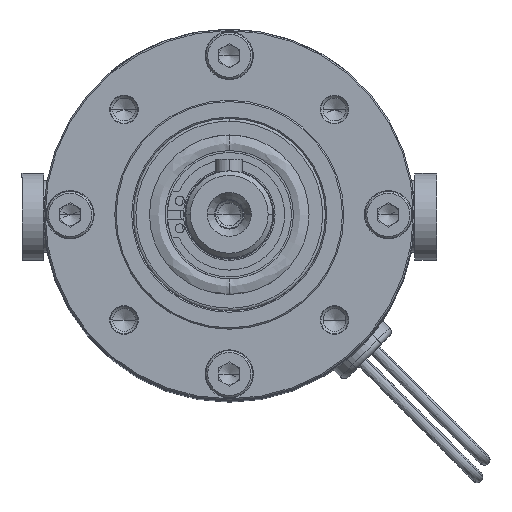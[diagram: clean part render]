
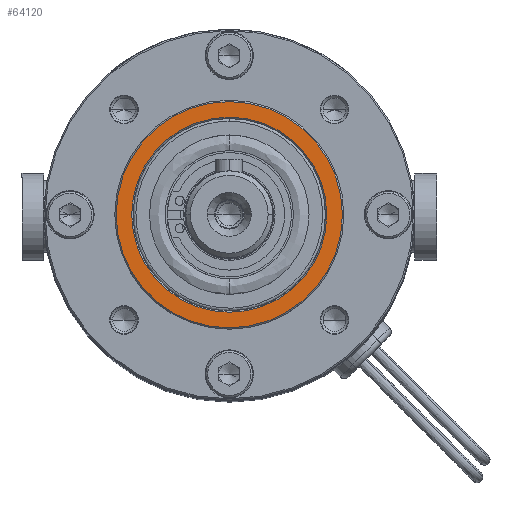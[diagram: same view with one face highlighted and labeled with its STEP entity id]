
A CAD part, top view. The second image highlights one B-rep face of the part: STEP entity #64120.
In plain terms, the highlighted planar face has unit normal (0, 0, 1).
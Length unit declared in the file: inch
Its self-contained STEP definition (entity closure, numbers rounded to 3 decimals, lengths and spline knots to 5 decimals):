
#6041 = CARTESIAN_POINT ( 'NONE',  ( 0.83858, 0., 5.07974 ) ) ;
#7184 = FACE_OUTER_BOUND ( 'NONE', #61421, .T. ) ;
#7916 = CIRCLE ( 'NONE', #82892, 0.83858 ) ;
#8387 = AXIS2_PLACEMENT_3D ( 'NONE', #33128, #106882, #43730 ) ;
#22017 = EDGE_LOOP ( 'NONE', ( #88511, #31675 ) ) ;
#24399 = DIRECTION ( 'NONE',  ( 0., 0., -1. ) ) ;
#31675 = ORIENTED_EDGE ( 'NONE', *, *, #66266, .T. ) ;
#32046 = VERTEX_POINT ( 'NONE', #6041 ) ;
#33128 = CARTESIAN_POINT ( 'NONE',  ( 0., 0., 5.07974 ) ) ;
#36240 = DIRECTION ( 'NONE',  ( 0., 0., -1. ) ) ;
#36587 = CARTESIAN_POINT ( 'NONE',  ( 0.97244, 0., 5.07974 ) ) ;
#40301 = ORIENTED_EDGE ( 'NONE', *, *, #102851, .F. ) ;
#43197 = AXIS2_PLACEMENT_3D ( 'NONE', #99316, #36240, #109925 ) ;
#43730 = DIRECTION ( 'NONE',  ( 1., 0., 0. ) ) ;
#45418 = CARTESIAN_POINT ( 'NONE',  ( 0., 0., 5.07974 ) ) ;
#47961 = VERTEX_POINT ( 'NONE', #53967 ) ;
#49507 = CIRCLE ( 'NONE', #83711, 0.97244 ) ;
#53967 = CARTESIAN_POINT ( 'NONE',  ( -0.83858, 0., 5.07974 ) ) ;
#55959 = DIRECTION ( 'NONE',  ( 1., 0., 0. ) ) ;
#57207 = DIRECTION ( 'NONE',  ( 0., 0., -1. ) ) ;
#61421 = EDGE_LOOP ( 'NONE', ( #71267, #40301 ) ) ;
#63685 = AXIS2_PLACEMENT_3D ( 'NONE', #120407, #57207, #131038 ) ;
#64120 = ADVANCED_FACE ( 'NONE', ( #116038, #7184 ), #106421, .T. ) ;
#65889 = VERTEX_POINT ( 'NONE', #69467 ) ;
#66266 = EDGE_CURVE ( 'NONE', #47961, #32046, #7916, .T. ) ;
#69467 = CARTESIAN_POINT ( 'NONE',  ( -0.97244, 0., 5.07974 ) ) ;
#71267 = ORIENTED_EDGE ( 'NONE', *, *, #118497, .F. ) ;
#82892 = AXIS2_PLACEMENT_3D ( 'NONE', #45418, #119161, #55959 ) ;
#83711 = AXIS2_PLACEMENT_3D ( 'NONE', #87566, #24399, #98143 ) ;
#87566 = CARTESIAN_POINT ( 'NONE',  ( 0., 0., 5.07974 ) ) ;
#88511 = ORIENTED_EDGE ( 'NONE', *, *, #105108, .T. ) ;
#98143 = DIRECTION ( 'NONE',  ( -1., 0., 0. ) ) ;
#99316 = CARTESIAN_POINT ( 'NONE',  ( 0., 0., 5.07974 ) ) ;
#102851 = EDGE_CURVE ( 'NONE', #107114, #65889, #49507, .T. ) ;
#105108 = EDGE_CURVE ( 'NONE', #32046, #47961, #114975, .T. ) ;
#106421 = PLANE ( 'NONE',  #8387 ) ;
#106882 = DIRECTION ( 'NONE',  ( 0., 0., 1. ) ) ;
#107114 = VERTEX_POINT ( 'NONE', #36587 ) ;
#109925 = DIRECTION ( 'NONE',  ( -1., 0., 0. ) ) ;
#114975 = CIRCLE ( 'NONE', #63685, 0.83858 ) ;
#116038 = FACE_BOUND ( 'NONE', #22017, .T. ) ;
#118497 = EDGE_CURVE ( 'NONE', #65889, #107114, #134149, .T. ) ;
#119161 = DIRECTION ( 'NONE',  ( 0., 0., -1. ) ) ;
#120407 = CARTESIAN_POINT ( 'NONE',  ( 0., 0., 5.07974 ) ) ;
#131038 = DIRECTION ( 'NONE',  ( 1., 0., 0. ) ) ;
#134149 = CIRCLE ( 'NONE', #43197, 0.97244 ) ;
